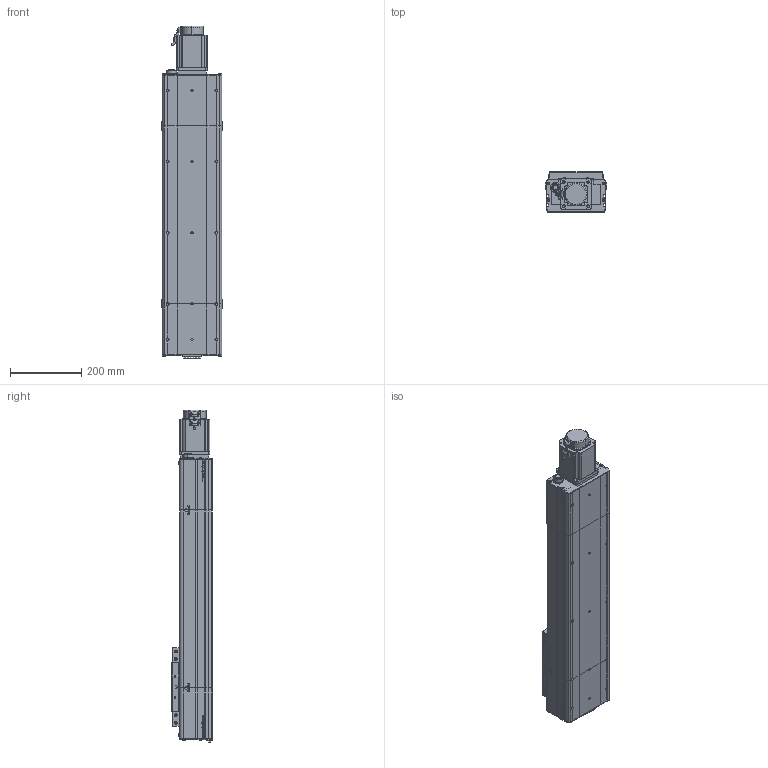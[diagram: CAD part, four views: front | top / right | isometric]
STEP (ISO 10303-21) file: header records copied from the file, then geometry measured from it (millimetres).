
FILE_DESCRIPTION (( 'STEP AP214' ), '1' );
FILE_NAME ('D17 CSH MD S500.STEP', '2010-06-29T14:01:39', ( 'Christophe Gaillard' ), ( 'SGA' ), 'SwSTEP 2.0', 'SolidWorks 2010', '' );
FILE_SCHEMA (( 'AUTOMOTIVE_DESIGN' ));
Length unit declared in the file: millimetre
Products named in the file (25): codeur 90BLDC100-640; corps 90BLDC100A-640; avant 90BLDC100A-640; Plaque de bout D17_Default; plaque de serrage D17 head_Default; Moteur motionking 90BLDC100A-640; plaque de serrage D17_Default; Corp Tail D17+100_Default; Conecteur2_Default; Tail D17+100_Default; couvercle D17-500_Default; Corp L500_Default; Corp D17 S500_Default; Conecteur_Default; chariot D17_Default; glissiere_Default; Chariot D17_Default; couvercle D17_Default; support chariot D17_Default; vis M5 L15_Default; Corp Head D17 MD_Default; D17 CSH MD S500; Plaque de bout D17 head_Default; couvercle D17 head_Default; Head D17 MD_Default
Assembly tree (44 placements, depth 4):
  D17 CSH MD S500
    Chariot D17_Default
      vis M5 L15_Default  x8
      glissiere_Default
      chariot D17_Default
      support chariot D17_Default
    Corp D17 S500_Default
      Corp L500_Default
      couvercle D17-500_Default
    Tail D17+100_Default
      vis M5 L15_Default  x6
      Plaque de bout D17_Default
      couvercle D17_Default
      plaque de serrage D17_Default
      Corp Tail D17+100_Default
    Head D17 MD_Default
      vis M5 L15_Default  x7
      couvercle D17 head_Default
      plaque de serrage D17 head_Default
      Moteur motionking 90BLDC100A-640
        corps 90BLDC100A-640
        Conecteur_Default
        codeur 90BLDC100-640
        Conecteur2_Default
        avant 90BLDC100A-640
      Plaque de bout D17 head_Default
      Corp Head D17 MD_Default
Bounding box: 172 x 114 x 933 mm (x, y, z)
Volume: 6257276 mm3; surface area: 1137247.5 mm2
Topology: 81 solids, 81 shells, 2958 faces, 7502 edges, 4920 vertices
Faces by surface type: plane 1793, bspline 710, cylinder 360, torus 53, cone 42
Entity records: 143153 total; most frequent: CARTESIAN_POINT 78274, ORIENTED_EDGE 13000, DIRECTION 9224, EDGE_CURVE 6500, LINE 4444, VECTOR 4444, VERTEX_POINT 4320, EDGE_LOOP 2736
